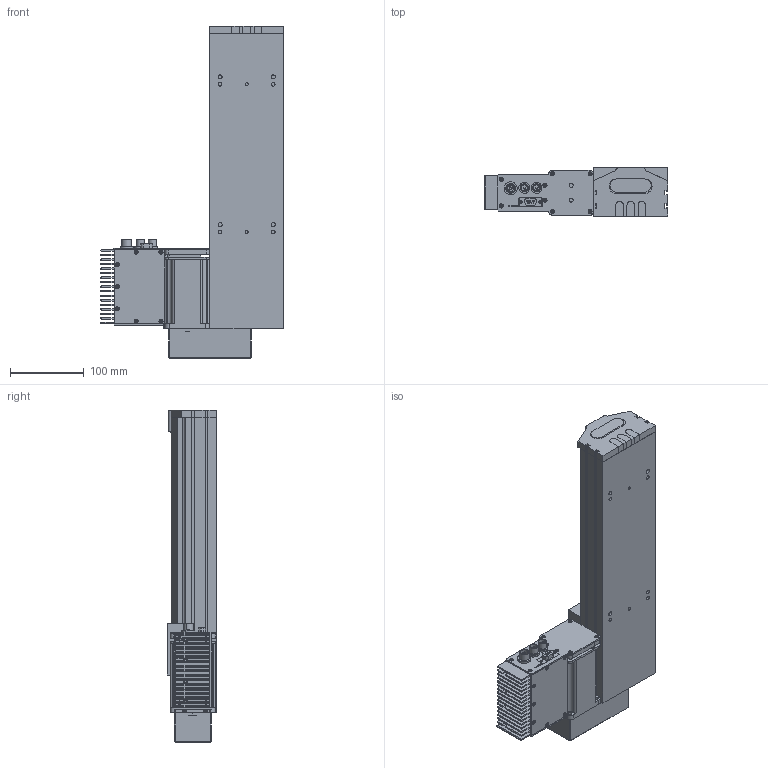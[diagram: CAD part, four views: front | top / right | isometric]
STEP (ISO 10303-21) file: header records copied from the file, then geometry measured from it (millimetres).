
FILE_DESCRIPTION (( 'STEP AP203' ), '1' );
FILE_NAME ('S10 TSN BL S200.STEP', '2012-08-31T14:16:09', ( 'Conseil Régional Haute-Normandie' ), ( 'Conseil Régional Haute-Normandie' ), 'SwSTEP 2.0', 'SolidWorks 2010', '' );
FILE_SCHEMA (( 'CONFIG_CONTROL_DESIGN' ));
Length unit declared in the file: millimetre
Products named in the file (25): T_X2_00F4_X0_le contre le moteur_5; Pièce2_Default; S10 TSN BL S200; Assem1_7; BU41 Carte Alimentation P05_3; Colonnette_3; BU45 Carte d''axe A11_5; Moteur 60BLDC90A_3; Couvercle_3; T_X2_00F4_X0_le fond_3; Connecteur rond D10 3cts_5; Connecteur rond D12 4cts_5; Sub D 9cts 90_X2_00B_X0__3; Radiateur profil_X2_00E9_X0_ 100x25_3; Colonnette ronde_3; T_X2_00F4_X0_le Arri_X2_00E8_X0_re_5; T_X2_00F4_X0_le lat_X2_00E9_X0_rale_5; Vis TF 3 torkx_1_1; axe387; palette tbn; renvoi LH_Default; piece_plastique remplie_Default; embout_modifié; remplir_Default; Vis TF 3 torkx
Assembly tree (55 placements, depth 3):
  S10 TSN BL S200
    Vis TF 3 torkx  x7
    palette tbn
    renvoi LH_Default
    Assem1_7
      Couvercle_3
      Vis TF 3 torkx_1_1  x21
      BU45 Carte d''axe A11_5
      Connecteur rond D10 3cts_5  x2
      T_X2_00F4_X0_le lat_X2_00E9_X0_rale_5  x2
      Sub D 9cts 90_X2_00B_X0__3
      T_X2_00F4_X0_le contre le moteur_5
      Colonnette_3  x2
      T_X2_00F4_X0_le fond_3
      BU41 Carte Alimentation P05_3
      Moteur 60BLDC90A_3
      Radiateur profil_X2_00E9_X0_ 100x25_3
      Colonnette ronde_3
      Connecteur rond D12 4cts_5
      T_X2_00F4_X0_le Arri_X2_00E8_X0_re_5
    piece_plastique remplie_Default
      Pièce2_Default
      embout_modifié
      remplir_Default  x3
    axe387
Bounding box: 248 x 66.75 x 449.5 mm (x, y, z)
Volume: 2820672.2 mm3; surface area: 473983.4 mm2
Topology: 53 solids, 53 shells, 1930 faces, 4920 edges, 3206 vertices
Faces by surface type: plane 918, cylinder 849, cone 156, bspline 4, torus 3
Entity records: 37591 total; most frequent: CARTESIAN_POINT 6356, DIRECTION 6079, ORIENTED_EDGE 5548, EDGE_CURVE 2774, AXIS2_PLACEMENT_3D 2218, VERTEX_POINT 1818, LINE 1643, VECTOR 1643
